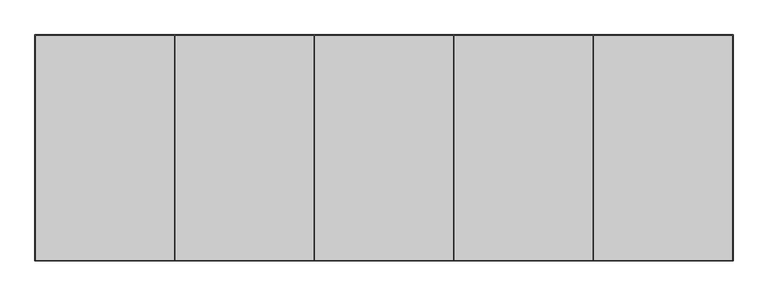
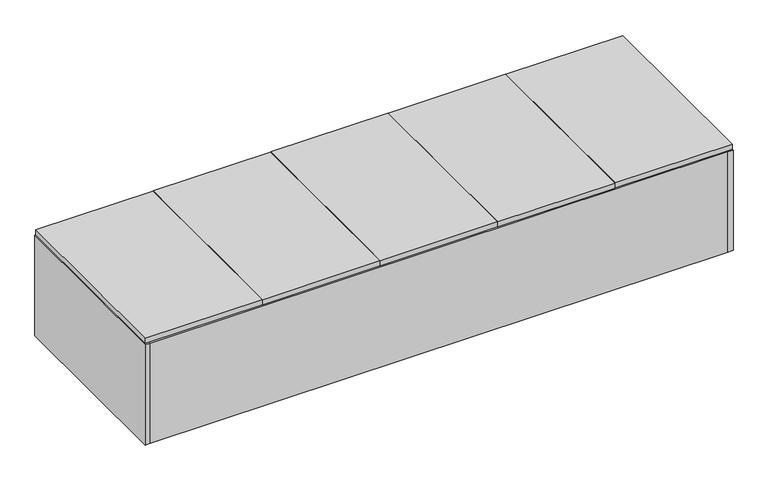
"""IFC4 building model written with IfcOpenShell, lengths in millimetres: proxy geometry, BASYS^OFFICE 3_WALL HUNG STORAGE-5 DOORS."""

from ifc_helpers import new_model, si_unit, frame, origin, origin_with_axes, place, context, project, spatial, polyline, outline, extrude, source, transform, mapped, element, save


def generic_models_2d11d537(model_context):
    return source(origin(), model_context, "Body", "SweptSolid", [
        extrude(outline(polyline([(2114.55, 0.0), (2114.55, 692.15), (2133.6, 692.15), (2133.6, 0.0), (2114.55, 0.0)])), origin_with_axes(), (0.0, 0.0, 1.0), 384.175),
        extrude(outline(polyline([(852.4875, 2.38125), (428.625, 2.38125), (428.625, 689.76875), (852.4875, 689.76875), (852.4875, 2.38125)])), frame((0.0, 0.0, 387.35), z_axis=(0.0, 0.0, 1.0), x_axis=(1.0, 0.0, 0.0)), (0.0, 0.0, 1.0), 19.05),
        extrude(outline(polyline([(1704.975, 2.38125), (1281.1125, 2.38125), (1281.1125, 689.76875), (1704.975, 689.76875), (1704.975, 2.38125)])), frame((0.0, 0.0, 387.35), z_axis=(0.0, 0.0, 1.0), x_axis=(1.0, 0.0, 0.0)), (0.0, 0.0, 1.0), 19.05),
        extrude(outline(polyline([(2131.21875, 2.38125), (1707.35625, 2.38125), (1707.35625, 689.76875), (2131.21875, 689.76875), (2131.21875, 2.38125)])), frame((0.0, 0.0, 387.35), z_axis=(0.0, 0.0, 1.0), x_axis=(1.0, 0.0, 0.0)), (0.0, 0.0, 1.0), 19.05),
        extrude(outline(polyline([(2114.55, 673.1), (2114.55, 19.05), (19.05, 19.05), (19.05, 673.1), (2114.55, 673.1)])), frame((0.0, 0.0, 19.05), z_axis=(0.0, 0.0, 1.0), x_axis=(1.0, 0.0, 0.0)), (0.0, 0.0, 1.0), 19.05),
        extrude(outline(polyline([(19.05, 673.1), (19.05, 692.15), (2114.55, 692.15), (2114.55, 673.1), (19.05, 673.1)])), origin_with_axes(), (0.0, 0.0, 1.0), 384.175),
        extrude(outline(polyline([(2114.55, 19.05), (2114.55, 0.0), (19.05, 0.0), (19.05, 19.05), (2114.55, 19.05)])), origin_with_axes(), (0.0, 0.0, 1.0), 384.175),
        extrude(outline(polyline([(1278.73125, 2.38125), (854.86875, 2.38125), (854.86875, 689.76875), (1278.73125, 689.76875), (1278.73125, 2.38125)])), frame((0.0, 0.0, 387.35), z_axis=(0.0, 0.0, 1.0), x_axis=(1.0, 0.0, 0.0)), (0.0, 0.0, 1.0), 19.05),
        extrude(outline(polyline([(0.0, 0.0), (0.0, 692.15), (19.05, 692.15), (19.05, 0.0), (0.0, 0.0)])), origin_with_axes(), (0.0, 0.0, 1.0), 384.175),
        extrude(outline(polyline([(426.24375, 2.38125), (2.38125, 2.38125), (2.38125, 689.76875), (426.24375, 689.76875), (426.24375, 2.38125)])), frame((0.0, 0.0, 387.35), z_axis=(0.0, 0.0, 1.0), x_axis=(1.0, 0.0, 0.0)), (0.0, 0.0, 1.0), 19.05),
    ])


if __name__ == "__main__":
    model = new_model("IFC4")
    model_context = context("Model", 3, world=origin())
    ifc_project = project(units=[si_unit("LENGTHUNIT", "METRE", prefix="MILLI")], contexts=[model_context])
    site = spatial("IfcSite", under=ifc_project)
    building = spatial("IfcBuilding", under=site)
    placement = place(None, origin())
    generic_models_shape = generic_models_2d11d537(model_context)
    element("IfcBuildingElementProxy", 1, Name="BASYS^OFFICE 3_WALL HUNG STORAGE-5 DOORS", ObjectType="BASYS^OFFICE 3_WALL HUNG STORAGE-5 DOORS", at=placement, inside=building, context=model_context, shape_type="MappedRepresentation", body=[
        mapped(generic_models_shape, transform((0.0, 0.0, 0.0), x_axis=(1.0, 0.0, 0.0), y_axis=(0.0, 1.0, 0.0), z_axis=(0.0, 0.0, 1.0))),
    ])
    save(model, "model.ifc")
